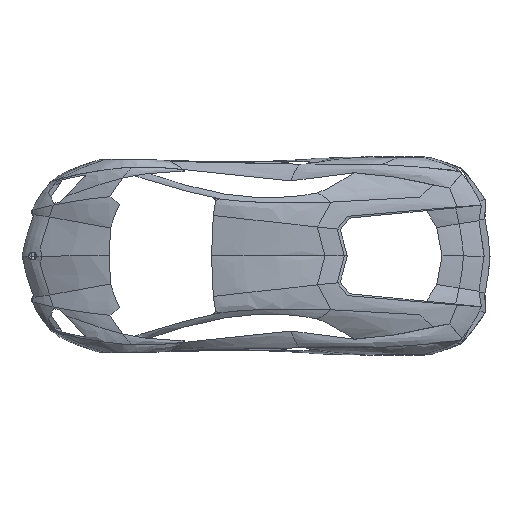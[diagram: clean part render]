
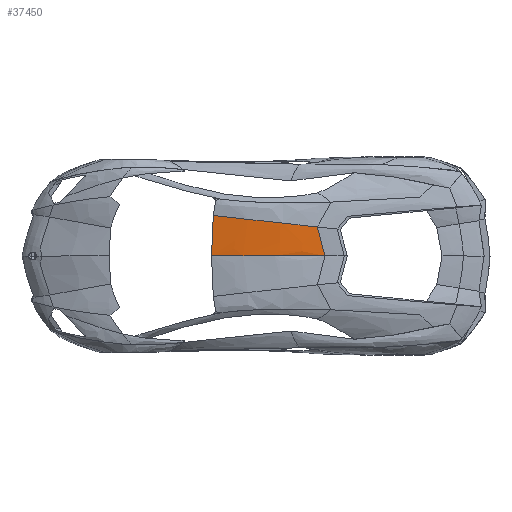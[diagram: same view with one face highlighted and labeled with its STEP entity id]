
A CAD part, top view. The second image highlights one B-rep face of the part: STEP entity #37450.
In plain terms, the highlighted free-form (B-spline) face has degree [5, 5] with [6, 6] control points.
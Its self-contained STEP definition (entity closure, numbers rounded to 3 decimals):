
#37325=CARTESIAN_POINT('Control Point',(1941.847,1557.466,1086.415)) ;
#37326=CARTESIAN_POINT('Control Point',(1938.48,1473.417,1089.783)) ;
#37327=CARTESIAN_POINT('Control Point',(1935.142,1389.387,1092.253)) ;
#37328=CARTESIAN_POINT('Control Point',(1931.847,1305.384,1093.367)) ;
#37329=CARTESIAN_POINT('Control Point',(1928.582,1221.402,1093.529)) ;
#37330=CARTESIAN_POINT('Control Point',(1925.34,1137.434,1092.981)) ;
#37331=CARTESIAN_POINT('Control Point',(2176.535,1547.446,1135.452)) ;
#37332=CARTESIAN_POINT('Control Point',(2173.285,1463.473,1135.161)) ;
#37333=CARTESIAN_POINT('Control Point',(2170.062,1379.517,1134.004)) ;
#37334=CARTESIAN_POINT('Control Point',(2166.853,1295.571,1132.412)) ;
#37335=CARTESIAN_POINT('Control Point',(2163.654,1211.631,1130.512)) ;
#37336=CARTESIAN_POINT('Control Point',(2160.475,1127.703,1127.985)) ;
#37337=CARTESIAN_POINT('Control Point',(2411.856,1537.836,1164.639)) ;
#37338=CARTESIAN_POINT('Control Point',(2408.724,1453.939,1160.625)) ;
#37339=CARTESIAN_POINT('Control Point',(2405.589,1370.04,1156.724)) ;
#37340=CARTESIAN_POINT('Control Point',(2402.449,1286.138,1152.979)) ;
#37341=CARTESIAN_POINT('Control Point',(2399.314,1202.239,1149.064)) ;
#37342=CARTESIAN_POINT('Control Point',(2396.181,1118.341,1145.1)) ;
#37343=CARTESIAN_POINT('Control Point',(2648.275,1528.935,1159.367)) ;
#37344=CARTESIAN_POINT('Control Point',(2645.066,1444.987,1157.804)) ;
#37345=CARTESIAN_POINT('Control Point',(2641.863,1361.045,1156.011)) ;
#37346=CARTESIAN_POINT('Control Point',(2638.674,1277.111,1153.789)) ;
#37347=CARTESIAN_POINT('Control Point',(2635.48,1193.174,1151.742)) ;
#37348=CARTESIAN_POINT('Control Point',(2632.286,1109.237,1149.688)) ;
#37349=CARTESIAN_POINT('Control Point',(2884.92,1520.179,1147.032)) ;
#37350=CARTESIAN_POINT('Control Point',(2881.734,1436.247,1144.726)) ;
#37351=CARTESIAN_POINT('Control Point',(2878.549,1352.316,1142.368)) ;
#37352=CARTESIAN_POINT('Control Point',(2875.357,1268.38,1140.253)) ;
#37353=CARTESIAN_POINT('Control Point',(2872.171,1184.448,1137.951)) ;
#37354=CARTESIAN_POINT('Control Point',(2868.991,1100.52,1135.442)) ;
#37355=CARTESIAN_POINT('Control Point',(3121.975,1511.688,1121.808)) ;
#37356=CARTESIAN_POINT('Control Point',(3118.807,1427.768,1118.932)) ;
#37357=CARTESIAN_POINT('Control Point',(3115.642,1343.85,1115.966)) ;
#37358=CARTESIAN_POINT('Control Point',(3112.484,1259.936,1112.785)) ;
#37359=CARTESIAN_POINT('Control Point',(3109.33,1176.024,1109.477)) ;
#37360=CARTESIAN_POINT('Control Point',(3106.178,1092.114,1106.117)) ;
#37362=CARTESIAN_POINT('Control Point',(1958.117,1552.645,1089.961)) ;
#37363=CARTESIAN_POINT('Control Point',(2000.066,1547.703,1098.632)) ;
#37364=CARTESIAN_POINT('Control Point',(2042.098,1542.823,1106.594)) ;
#37365=CARTESIAN_POINT('Control Point',(2084.216,1538.005,1113.77)) ;
#37366=CARTESIAN_POINT('Control Point',(2168.623,1528.496,1126.507)) ;
#37367=CARTESIAN_POINT('Control Point',(2253.361,1519.223,1136.022)) ;
#37368=CARTESIAN_POINT('Control Point',(2295.809,1514.64,1139.978)) ;
#37369=CARTESIAN_POINT('Control Point',(2413.053,1502.129,1148.762)) ;
#37370=CARTESIAN_POINT('Control Point',(2530.726,1489.818,1151.994)) ;
#37371=CARTESIAN_POINT('Control Point',(2605.817,1481.952,1152.021)) ;
#37372=CARTESIAN_POINT('Control Point',(2734.096,1468.153,1149.14)) ;
#37373=CARTESIAN_POINT('Control Point',(2862.022,1453.522,1141.856)) ;
#37374=CARTESIAN_POINT('Control Point',(2915.036,1447.277,1138.148)) ;
#37375=CARTESIAN_POINT('Control Point',(2967.965,1440.859,1133.8)) ;
#37376=CARTESIAN_POINT('Control Point',(3020.809,1434.269,1128.809)) ;
#37377=CARTESIAN_POINT('Vertex',(1958.117,1552.645,1089.961)) ;
#37379=CARTESIAN_POINT('Vertex',(3020.809,1434.269,1128.809)) ;
#37383=CARTESIAN_POINT('Control Point',(3020.809,1434.269,1128.809)) ;
#37384=CARTESIAN_POINT('Control Point',(3038.999,1376.96,1125.124)) ;
#37385=CARTESIAN_POINT('Control Point',(3055.613,1319.243,1121.357)) ;
#37386=CARTESIAN_POINT('Control Point',(3070.649,1261.118,1117.509)) ;
#37387=CARTESIAN_POINT('Control Point',(3084.108,1202.584,1113.567)) ;
#37388=CARTESIAN_POINT('Control Point',(3095.989,1143.641,1109.608)) ;
#37389=CARTESIAN_POINT('Vertex',(3095.989,1143.641,1109.608)) ;
#37393=CARTESIAN_POINT('Control Point',(3096.382,1141.227,1109.457)) ;
#37394=CARTESIAN_POINT('Control Point',(3096.323,1141.838,1109.49)) ;
#37395=CARTESIAN_POINT('Control Point',(3096.229,1142.445,1109.528)) ;
#37396=CARTESIAN_POINT('Control Point',(3096.109,1143.044,1109.568)) ;
#37397=CARTESIAN_POINT('Control Point',(3095.989,1143.641,1109.608)) ;
#37398=CARTESIAN_POINT('Vertex',(3096.382,1141.227,1109.457)) ;
#37402=CARTESIAN_POINT('Control Point',(3096.382,1141.227,1109.457)) ;
#37403=CARTESIAN_POINT('Control Point',(3037.546,1141.213,1116.369)) ;
#37404=CARTESIAN_POINT('Control Point',(2978.72,1141.198,1122.383)) ;
#37405=CARTESIAN_POINT('Control Point',(2919.906,1141.182,1127.453)) ;
#37406=CARTESIAN_POINT('Control Point',(2802.303,1141.149,1135.649)) ;
#37407=CARTESIAN_POINT('Control Point',(2684.753,1141.116,1139.901)) ;
#37408=CARTESIAN_POINT('Control Point',(2625.991,1141.1,1141.029)) ;
#37409=CARTESIAN_POINT('Control Point',(2510.415,1141.069,1141.286)) ;
#37410=CARTESIAN_POINT('Control Point',(2394.889,1141.038,1137.716)) ;
#37411=CARTESIAN_POINT('Control Point',(2338.098,1141.023,1135.042)) ;
#37412=CARTESIAN_POINT('Control Point',(2224.539,1140.993,1127.881)) ;
#37413=CARTESIAN_POINT('Control Point',(2111.028,1140.961,1117.078)) ;
#37414=CARTESIAN_POINT('Control Point',(2054.285,1140.945,1110.762)) ;
#37415=CARTESIAN_POINT('Control Point',(1997.554,1140.93,1103.513)) ;
#37416=CARTESIAN_POINT('Control Point',(1940.838,1140.915,1095.266)) ;
#37417=CARTESIAN_POINT('Vertex',(1940.838,1140.915,1095.266)) ;
#37421=CARTESIAN_POINT('Control Point',(1940.838,1140.915,1095.266)) ;
#37422=CARTESIAN_POINT('Control Point',(1940.839,1141.83,1095.268)) ;
#37423=CARTESIAN_POINT('Control Point',(1940.843,1142.745,1095.271)) ;
#37424=CARTESIAN_POINT('Control Point',(1940.846,1143.659,1095.273)) ;
#37425=CARTESIAN_POINT('Vertex',(1940.846,1143.659,1095.273)) ;
#37429=CARTESIAN_POINT('Control Point',(1958.117,1552.645,1089.961)) ;
#37430=CARTESIAN_POINT('Control Point',(1955.577,1524.327,1090.714)) ;
#37431=CARTESIAN_POINT('Control Point',(1953.295,1495.99,1091.434)) ;
#37432=CARTESIAN_POINT('Control Point',(1951.271,1467.633,1092.099)) ;
#37433=CARTESIAN_POINT('Control Point',(1947.632,1409.125,1093.331)) ;
#37434=CARTESIAN_POINT('Control Point',(1945.024,1350.549,1094.241)) ;
#37435=CARTESIAN_POINT('Control Point',(1943.934,1320.368,1094.616)) ;
#37436=CARTESIAN_POINT('Control Point',(1942.381,1266.92,1095.106)) ;
#37437=CARTESIAN_POINT('Control Point',(1941.437,1213.46,1095.307)) ;
#37438=CARTESIAN_POINT('Control Point',(1941.133,1190.194,1095.342)) ;
#37439=CARTESIAN_POINT('Control Point',(1940.936,1166.927,1095.329)) ;
#37440=CARTESIAN_POINT('Control Point',(1940.846,1143.659,1095.273)) ;
#37443=ORIENTED_EDGE('',*,*,#37381,.T.) ;
#37444=ORIENTED_EDGE('',*,*,#37391,.T.) ;
#37445=ORIENTED_EDGE('',*,*,#37400,.F.) ;
#37446=ORIENTED_EDGE('',*,*,#37419,.T.) ;
#37447=ORIENTED_EDGE('',*,*,#37427,.T.) ;
#37448=ORIENTED_EDGE('',*,*,#37441,.F.) ;
#37450=ADVANCED_FACE('FreeStyle Fill.77',(#37449),#37324,.T.) ;
#37361=B_SPLINE_CURVE_WITH_KNOTS('',5,(#37362,#37363,#37364,#37365,#37366,#37367,#37368,#37369,#37370,#37371,#37372,#37373,#37374,#37375,#37376),.UNSPECIFIED.,.F.,.U.,(6,3,3,3,6),(0.,214.519,429.038,806.04,1073.555),.UNSPECIFIED.) ;
#37382=B_SPLINE_CURVE_WITH_KNOTS('',5,(#37383,#37384,#37385,#37386,#37387,#37388),.UNSPECIFIED.,.F.,.U.,(6,6),(0.,300.916),.UNSPECIFIED.) ;
#37392=B_SPLINE_CURVE_WITH_KNOTS('',4,(#37393,#37394,#37395,#37396,#37397),.UNSPECIFIED.,.F.,.U.,(5,5),(4.942,7.413),.UNSPECIFIED.) ;
#37401=B_SPLINE_CURVE_WITH_KNOTS('',5,(#37402,#37403,#37404,#37405,#37406,#37407,#37408,#37409,#37410,#37411,#37412,#37413,#37414,#37415,#37416),.UNSPECIFIED.,.F.,.U.,(6,3,3,3,6),(0.,294.343,588.685,873.412,1158.139),.UNSPECIFIED.) ;
#37420=B_SPLINE_CURVE_WITH_KNOTS('',3,(#37421,#37422,#37423,#37424),.UNSPECIFIED.,.F.,.U.,(4,4),(4.575,7.318),.UNSPECIFIED.) ;
#37428=B_SPLINE_CURVE_WITH_KNOTS('',5,(#37429,#37430,#37431,#37432,#37433,#37434,#37435,#37436,#37437,#37438,#37439,#37440),.UNSPECIFIED.,.F.,.U.,(6,3,3,6),(0.,142.186,293.175,409.515),.UNSPECIFIED.) ;
#37324=B_SPLINE_SURFACE_WITH_KNOTS('',5,5,((#37325,#37326,#37327,#37328,#37329,#37330),(#37331,#37332,#37333,#37334,#37335,#37336),(#37337,#37338,#37339,#37340,#37341,#37342),(#37343,#37344,#37345,#37346,#37347,#37348),(#37349,#37350,#37351,#37352,#37353,#37354),(#37355,#37356,#37357,#37358,#37359,#37360)),.UNSPECIFIED.,.F.,.F.,.U.,(6,6),(6,6),(-578.409,603.136),(-275.363,144.75),.UNSPECIFIED.) ;
#37381=EDGE_CURVE('',#37378,#37380,#37361,.T.) ;
#37391=EDGE_CURVE('',#37380,#37390,#37382,.T.) ;
#37400=EDGE_CURVE('',#37399,#37390,#37392,.T.) ;
#37419=EDGE_CURVE('',#37399,#37418,#37401,.T.) ;
#37427=EDGE_CURVE('',#37418,#37426,#37420,.T.) ;
#37441=EDGE_CURVE('',#37378,#37426,#37428,.T.) ;
#37442=EDGE_LOOP('',(#37443,#37444,#37445,#37446,#37447,#37448)) ;
#37449=FACE_OUTER_BOUND('',#37442,.T.) ;
#37378=VERTEX_POINT('',#37377) ;
#37380=VERTEX_POINT('',#37379) ;
#37390=VERTEX_POINT('',#37389) ;
#37399=VERTEX_POINT('',#37398) ;
#37418=VERTEX_POINT('',#37417) ;
#37426=VERTEX_POINT('',#37425) ;
